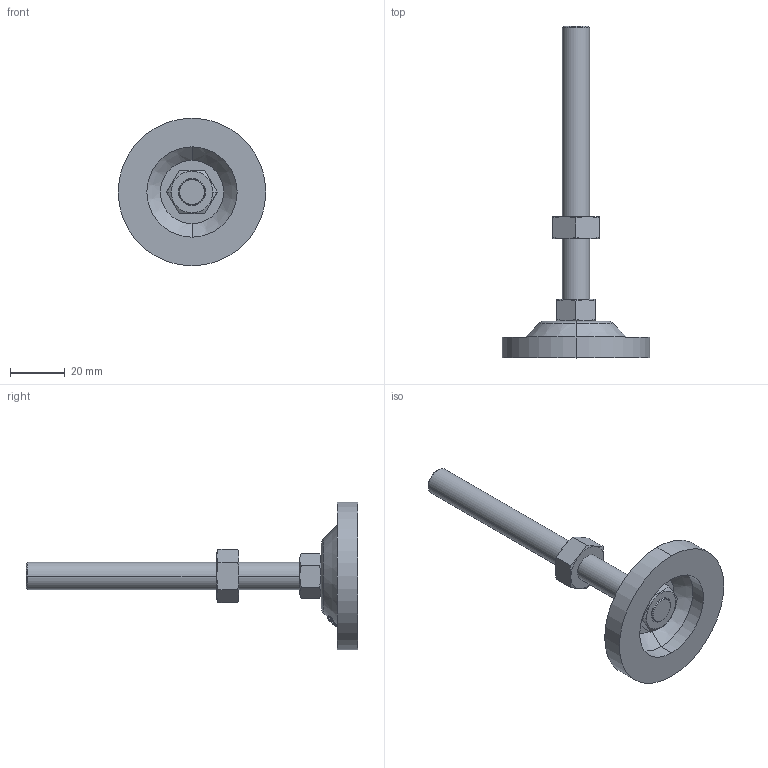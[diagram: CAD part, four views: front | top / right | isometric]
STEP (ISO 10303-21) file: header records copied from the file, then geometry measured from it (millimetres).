
FILE_DESCRIPTION (( 'STEP AP203' ), '1' );
FILE_NAME ('P-54-10100-BR.STEP', '2020-09-10T08:54:02', ( '' ), ( '' ), 'SwSTEP 2.0', 'SolidWorks 2016', '' );
FILE_SCHEMA (( 'CONFIG_CONTROL_DESIGN' ));
Length unit declared in the file: millimetre
Products named in the file (5): 脚垫调节六角螺母M10; hex thin nuts-grades ab-chamfered gb_GB_FASTENER_NUT_STNAB M10-N; P-54-1菁釱-3P; P-54-10100-BR; 傲郈蹟裝M10炵蹈_M10X100
Assembly tree (4 placements, depth 2):
  P-54-10100-BR
    P-54-1菁釱-3P
    傲郈蹟裝M10炵蹈_M10X100
    hex thin nuts-grades ab-chamfered gb_GB_FASTENER_NUT_STNAB M10-N
    脚垫调节六角螺母M10
Bounding box: 54 x 121.4 x 54 mm (x, y, z)
Volume: 25804.4 mm3; surface area: 17669.7 mm2
Topology: 5 solids, 5 shells, 145 faces, 336 edges, 212 vertices
Faces by surface type: cone 47, bspline 38, plane 34, cylinder 20, torus 6
Entity records: 7894 total; most frequent: CARTESIAN_POINT 4437, ORIENTED_EDGE 672, DIRECTION 488, EDGE_CURVE 336, VERTEX_POINT 212, AXIS2_PLACEMENT_3D 210, B_SPLINE_CURVE_WITH_KNOTS 172, EDGE_LOOP 164
